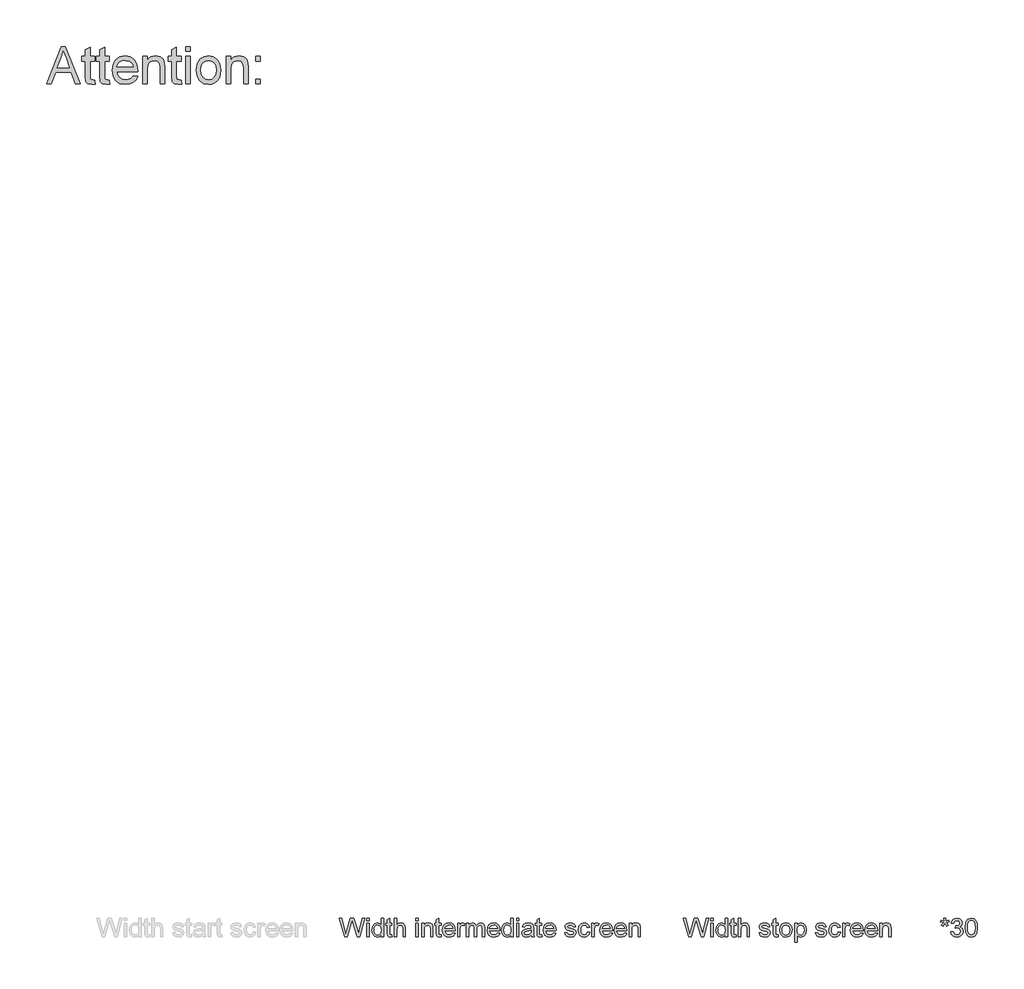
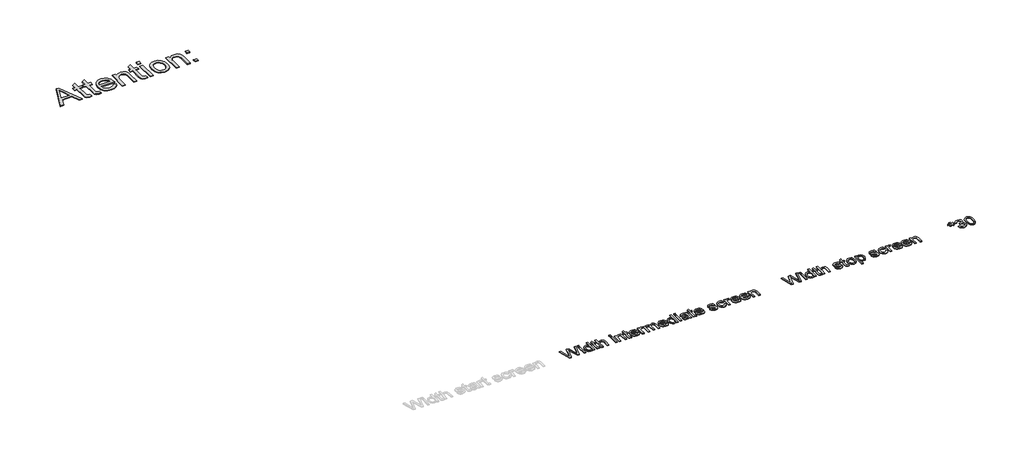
# One storey, part 5 of 8: 4 proxies.
"""IFC4 building model written with IfcOpenShell, lengths in millimetres."""

import ifcopenshell
import ifcopenshell.guid

model = None  # the IFC model being written
_history = None  # IfcOwnerHistory: only IFC2X3 demands one
_inside = {}  # id of a spatial element -> (the spatial element, [elements in it])
_under = {}  # id of a project, library or spatial element -> (it, [spatial elements below it])
_declared = {}  # id of a project -> (the project, [libraries it declares])
_typed = {}  # id of a type object -> (the type object, [elements of that type])
_made_of = {}  # id of a material, layer set ... -> (it, [elements and type objects made of it])


def new_model(schema):
    """Start an empty IFC model of exactly this schema.

    Asked for "IFC4X3", IfcOpenShell would pick the latest addendum, in which some entities
    have other attributes; the version numbers below select the first issue.
    IFC2X3 requires an IfcOwnerHistory on every rooted entity: one is made here for all.
    """
    global model, _history
    if schema == "IFC4X3":
        model = ifcopenshell.file(schema_version=(4, 3, 0, 0))
    else:
        model = ifcopenshell.file(schema=schema)
    _inside.clear()
    _under.clear()
    _declared.clear()
    _typed.clear()
    _made_of.clear()
    _history = None
    if model.schema == "IFC2X3":
        org = make("IfcOrganization", Name="unknown")
        user = make(
            "IfcPersonAndOrganization",
            ThePerson=make("IfcPerson", FamilyName="unknown"),
            TheOrganization=org,
        )
        app = make(
            "IfcApplication",
            ApplicationDeveloper=org,
            Version="unknown",
            ApplicationFullName="unknown",
            ApplicationIdentifier="unknown",
        )
        _history = make(
            "IfcOwnerHistory",
            OwningUser=user,
            OwningApplication=app,
            ChangeAction="ADDED",
            CreationDate=0,
        )
    return model


def make(cls, **values):
    """One entity of the class cls with the attributes given. An attribute that is None is left unset."""
    return model.create_entity(
        cls, **{name: value for name, value in values.items() if value is not None}
    )


def rooted(cls, **values):
    """An entity with a GlobalId (a new one), such as an element, a storey or a relation."""
    return make(cls, GlobalId=ifcopenshell.guid.new(), OwnerHistory=_history, **values)


def si_unit(unit_type, name, prefix=None):
    """IfcSIUnit, for example si_unit("LENGTHUNIT", "METRE", prefix="MILLI")."""
    return make("IfcSIUnit", UnitType=unit_type, Prefix=prefix, Name=name)


def assignment(units):
    """IfcUnitAssignment: the units of a project."""
    return None if units is None else make("IfcUnitAssignment", Units=units)


def point(xyz):
    """IfcCartesianPoint."""
    return None if xyz is None else make("IfcCartesianPoint", Coordinates=xyz)


def direction(xyz):
    """IfcDirection."""
    return None if xyz is None else make("IfcDirection", DirectionRatios=xyz)


def frame(location, z_axis=None, x_axis=None):
    """IfcAxis2Placement3D, a coordinate frame: its origin and axes. An axis left out is left unset."""
    return make(
        "IfcAxis2Placement3D",
        Location=point(location),
        Axis=direction(z_axis),
        RefDirection=direction(x_axis),
    )


def origin():
    """The frame at (0, 0, 0) with its axes left unset."""
    return frame((0.0, 0.0, 0.0))


def origin_with_axes():
    """The frame at (0, 0, 0) with the z axis (0, 0, 1) and the x axis (1, 0, 0) written out."""
    return frame((0.0, 0.0, 0.0), z_axis=(0.0, 0.0, 1.0), x_axis=(1.0, 0.0, 0.0))


def place(relative_to, where):
    """IfcLocalPlacement: puts the frame where relative to a parent placement (None: the world)."""
    return make(
        "IfcLocalPlacement", PlacementRelTo=relative_to, RelativePlacement=where
    )


def context(
    kind, dimensions, precision=None, world=None, true_north=None, identifier=None
):
    """IfcGeometricRepresentationContext, for example the 3D "Model" context."""
    return make(
        "IfcGeometricRepresentationContext",
        ContextIdentifier=identifier,
        ContextType=kind,
        CoordinateSpaceDimension=dimensions,
        Precision=precision,
        WorldCoordinateSystem=world,
        TrueNorth=true_north,
    )


def project(units=None, contexts=None):
    """IfcProject with its units and contexts."""
    return rooted(
        "IfcProject",
        Name="project",
        RepresentationContexts=contexts,
        UnitsInContext=assignment(units),
    )


def spatial(cls, under=None, at=None, **own):
    """A site, building, storey or space (cls), placed at a placement, below another one or the project."""
    s = rooted(cls, ObjectPlacement=at, **own)
    if under is not None:
        _under.setdefault(under.id(), (under, []))[1].append(s)
    return s


def polyline(points):
    """IfcPolyline through the points."""
    return make("IfcPolyline", Points=[point(p) for p in points])


def outline(outer, holes=None, kind="AREA"):
    """IfcArbitraryClosedProfileDef: a profile drawn as a closed curve; with holes, ...WithVoids."""
    if holes is None:
        return make("IfcArbitraryClosedProfileDef", ProfileType=kind, OuterCurve=outer)
    return make(
        "IfcArbitraryProfileDefWithVoids",
        ProfileType=kind,
        OuterCurve=outer,
        InnerCurves=holes,
    )


def extrude(swept, where, along, depth):
    """IfcExtrudedAreaSolid: the profile swept, set in the frame where, extruded along a direction by depth."""
    return make(
        "IfcExtrudedAreaSolid",
        SweptArea=swept,
        Position=where,
        ExtrudedDirection=direction(along),
        Depth=depth,
    )


def shape(context_of_items, identifier, shape_type, items):
    """IfcShapeRepresentation: the items that make up one representation, for example the "Body"."""
    return make(
        "IfcShapeRepresentation",
        ContextOfItems=context_of_items,
        RepresentationIdentifier=identifier,
        RepresentationType=shape_type,
        Items=items,
    )


def made_of(thing, what):
    """Note that an element or type object is made of a material, layer set ...; save() writes the relation."""
    if what is not None:
        _made_of.setdefault(what.id(), (what, []))[1].append(thing)
    return thing


def element(
    cls,
    number,
    at=None,
    inside=None,
    cuts=None,
    type_object=None,
    material=None,
    context=None,
    identifier="Body",
    shape_type=None,
    held_by="IfcProductDefinitionShape",
    body=None,
    shapes=None,
    **own,
):
    """One element of the class cls, such as IfcWall. Its Tag is "e" and its number.

    at: its placement. inside: the storey or other place that contains it. cuts: it is an
    opening in that element (IfcRelVoidsElement). A single representation is given by context,
    identifier, shape_type and body (its items); several are given by shapes. held_by: the class
    of the entity that holds the representations. save() writes the other relations.
    """
    e = rooted(cls, Tag="e%d" % number, ObjectPlacement=at, **own)
    if body is not None:
        shapes = [shape(context, identifier, shape_type, body)]
    if shapes is not None:
        e.Representation = make(held_by, Representations=shapes)
    if inside is not None:
        _inside.setdefault(inside.id(), (inside, []))[1].append(e)
    if cuts is not None:
        rooted(
            "IfcRelVoidsElement", RelatingBuildingElement=cuts, RelatedOpeningElement=e
        )
    if type_object is not None:
        _typed.setdefault(type_object.id(), (type_object, []))[1].append(e)
    return made_of(e, material)


def aggregate(whole, parts):
    """IfcRelAggregates: a whole, such as a stair, and the parts it consists of."""
    return rooted("IfcRelAggregates", RelatingObject=whole, RelatedObjects=parts)


def save(model, path):
    """Write the relations noted so far, then the file.

    IfcRelAggregates (storeys below a building ...), IfcRelContainedInSpatialStructure (elements
    in a storey), IfcRelDefinesByType, IfcRelAssociatesMaterial and IfcRelDeclares: one each for
    every whole, place, type object, material and project.
    """
    for whole, parts in _under.values():
        aggregate(whole, parts)
    for where, things in _inside.values():
        rooted(
            "IfcRelContainedInSpatialStructure",
            RelatedElements=things,
            RelatingStructure=where,
        )
    for kind, things in _typed.values():
        rooted("IfcRelDefinesByType", RelatedObjects=things, RelatingType=kind)
    for what, things in _made_of.values():
        rooted("IfcRelAssociatesMaterial", RelatedObjects=things, RelatingMaterial=what)
    for by, libraries in _declared.values():
        rooted("IfcRelDeclares", RelatingContext=by, RelatedDefinitions=libraries)
    model.write(path)


model = new_model("IFC4")

# Units and contexts
model_context = context("Model", 3, world=origin())
ifc_project = project(units=[si_unit("LENGTHUNIT", "METRE", prefix="MILLI")], contexts=[model_context])

# Site, building, storey
site = spatial("IfcSite", under=ifc_project)
building = spatial("IfcBuilding", under=site)
storey = spatial("IfcBuildingStorey", under=building, Name="Fixscreen Mini CW50 Overview Top", Elevation=0.0)

# Proxies
placement = place(None, origin())
element("IfcBuildingElementProxy", 1, Name="100mm Arial", ObjectType="100mm Arial", at=placement, inside=storey, context=model_context, shape_type="SweptSolid", body=[
    extrude(outline(polyline([(6048.0070111, -5916.1618941), (6020.6120652, -5815.705584), (6033.5615114, -5815.705584), (6049.4540136, -5881.7281394), (6054.3591069, -5902.1088019), (6059.6075567, -5884.0825842), (6079.5222354, -5815.705584), (6098.1861153, -5815.705584), (6112.6561404, -5865.2715515), (6123.4228201, -5902.1088019), (6128.1807606, -5882.3167506), (6144.2204156, -5815.705584), (6157.1698618, -5815.705584), (6129.7503904, -5916.1618941), (6116.3349603, -5916.1618941), (6092.2509524, -5838.6614205), (6088.8909635, -5827.8456898), (6085.1140417, -5840.8687125), (6063.1637493, -5916.1618941), (6048.0070111, -5916.1618941)])), origin_with_axes(), (0.0, 0.0, 1.0), 5.0),
    extrude(outline(polyline([(6168.1572707, -5916.1618941), (6168.1572707, -5842.3892914), (6180.7143095, -5842.3892914), (6180.7143095, -5916.1618941), (6168.1572707, -5916.1618941)])), origin_with_axes(), (0.0, 0.0, 1.0), 5.0),
    extrude(outline(polyline([(6168.1572707, -5828.2626228), (6168.1572707, -5815.705584), (6180.7143095, -5815.705584), (6180.7143095, -5828.2626228), (6168.1572707, -5828.2626228)])), origin_with_axes(), (0.0, 0.0, 1.0), 5.0),
    extrude(outline(polyline([(6245.0691332, -5916.1618941), (6245.0691332, -5904.3160939), (6236.7611315, -5914.3776665), (6225.2770819, -5917.731524), (6209.7279362, -5912.8754817), (6198.7405273, -5899.3251615), (6194.8409781, -5879.3491692), (6198.4339589, -5859.3609141), (6209.2006387, -5845.6021275), (6225.2280309, -5840.8196615), (6236.804051, -5844.2409641), (6245.0691332, -5853.1314456), (6245.0691332, -5815.705584), (6257.626172, -5815.705584), (6257.626172, -5916.1618941), (6245.0691332, -5916.1618941)]), holes=[polyline([(6207.3980169, -5879.3001182), (6208.8143626, -5890.6584748), (6213.0633996, -5898.7365503), (6219.2376858, -5903.5650015), (6226.4297788, -5905.1744852), (6233.6188061, -5903.6385779), (6239.6367424, -5899.0308559), (6243.7110355, -5891.2654801), (6245.0691332, -5880.2566114), (6243.68651, -5868.2207388), (6239.5386405, -5859.8759489), (6233.3674201, -5855.0015124), (6225.914744, -5853.3767003), (6218.6490746, -5854.9371331), (6212.6955176, -5859.6184315), (6208.7223921, -5867.6597188), (6207.3980169, -5879.3001182)])]), origin_with_axes(), (0.0, 0.0, 1.0), 5.0),
    extrude(outline(polyline([(6303.1454375, -5905.68952), (6304.7150673, -5916.5297761), (6295.3218137, -5917.731524), (6284.8003887, -5915.6468593), (6279.5519389, -5910.1776804), (6278.03136, -5895.9283844), (6278.03136, -5854.9463301), (6268.6135809, -5854.9463301), (6268.6135809, -5842.3892914), (6278.03136, -5842.3892914), (6278.03136, -5824.4611755), (6290.5883987, -5817.0790101), (6290.5883987, -5842.3892914), (6303.1454375, -5842.3892914), (6303.1454375, -5854.9463301), (6290.5883987, -5854.9463301), (6290.5883987, -5895.5605024), (6291.2505863, -5902.0352255), (6293.3965646, -5904.3283566), (6297.6762585, -5905.1744852), (6303.1454375, -5905.68952)])), origin_with_axes(), (0.0, 0.0, 1.0), 5.0),
    extrude(outline(polyline([(6315.7024763, -5916.1618941), (6315.7024763, -5815.705584), (6328.259515, -5815.705584), (6328.259515, -5852.6409363), (6338.0513075, -5843.7749802), (6350.1117056, -5840.8196615), (6364.2138487, -5844.0447604), (6372.7732365, -5852.9597674), (6375.3484104, -5869.4654062), (6375.3484104, -5916.1618941), (6362.7913717, -5916.1618941), (6362.7913717, -5870.7652559), (6358.7937206, -5857.5215041), (6347.4629552, -5853.3767003), (6337.1745221, -5856.1726035), (6330.3073915, -5863.7509726), (6328.259515, -5876.9701989), (6328.259515, -5916.1618941), (6315.7024763, -5916.1618941)])), origin_with_axes(), (0.0, 0.0, 1.0), 5.0),
    extrude(outline(polyline([(6431.8550849, -5828.2626228), (6431.8550849, -5815.705584), (6444.4121236, -5815.705584), (6444.4121236, -5828.2626228), (6431.8550849, -5828.2626228)])), origin_with_axes(), (0.0, 0.0, 1.0), 5.0),
    extrude(outline(polyline([(6431.8550849, -5916.1618941), (6431.8550849, -5842.3892914), (6444.4121236, -5842.3892914), (6444.4121236, -5916.1618941), (6431.8550849, -5916.1618941)])), origin_with_axes(), (0.0, 0.0, 1.0), 5.0),
    extrude(outline(polyline([(6463.2476818, -5916.1618941), (6463.2476818, -5842.3892914), (6475.8047206, -5842.3892914), (6475.8047206, -5852.6899872), (6485.4064406, -5843.787243), (6498.5153024, -5840.8196615), (6510.3733654, -5843.2108945), (6518.4667693, -5849.4894139), (6522.2314284, -5858.723252), (6522.893616, -5870.8633578), (6522.893616, -5916.1618941), (6510.3365772, -5916.1618941), (6510.3365772, -5872.555615), (6508.8895747, -5861.4455787), (6503.7760149, -5855.5717295), (6495.1553135, -5853.3767003), (6481.531417, -5858.306319), (6477.2363947, -5865.4493611), (6475.8047206, -5877.0192499), (6475.8047206, -5916.1618941), (6463.2476818, -5916.1618941)])), origin_with_axes(), (0.0, 0.0, 1.0), 5.0),
    extrude(outline(polyline([(6566.8432516, -5905.68952), (6568.4128815, -5916.5297761), (6559.0196279, -5917.731524), (6548.4982028, -5915.6468593), (6543.249753, -5910.1776804), (6541.7291741, -5895.9283844), (6541.7291741, -5854.9463301), (6532.311395, -5854.9463301), (6532.311395, -5842.3892914), (6541.7291741, -5842.3892914), (6541.7291741, -5824.4611755), (6554.2862129, -5817.0790101), (6554.2862129, -5842.3892914), (6566.8432516, -5842.3892914), (6566.8432516, -5854.9463301), (6554.2862129, -5854.9463301), (6554.2862129, -5895.5605024), (6554.9484005, -5902.0352255), (6557.0943788, -5904.3283566), (6561.3740726, -5905.1744852), (6566.8432516, -5905.68952)])), origin_with_axes(), (0.0, 0.0, 1.0), 5.0),
    extrude(outline(polyline([(6631.0509225, -5894.1870763), (6643.3627066, -5895.7567061), (6638.9266629, -5905.0334638), (6631.8480002, -5911.9680394), (6622.286134, -5916.2906528), (6610.4004799, -5917.731524), (6595.666806, -5915.2452548), (6584.3299091, -5907.7864474), (6577.1010279, -5895.8394796), (6574.6914009, -5879.8887294), (6577.1255534, -5863.4014847), (6584.428011, -5851.0713065), (6595.6116237, -5843.3825728), (6609.6892413, -5840.8196615), (6623.3284663, -5843.3764414), (6634.2269704, -5851.046781), (6641.3730782, -5863.3524337), (6643.7551141, -5879.815153), (6643.6815377, -5883.1996674), (6587.2484396, -5883.1996674), (6589.4220091, -5892.5990524), (6594.4711895, -5899.5091025), (6601.7583187, -5903.7581395), (6610.6457345, -5905.1744852), (6622.9575186, -5902.5502603), (6631.0509225, -5894.1870763)]), holes=[polyline([(6587.2484396, -5870.6426286), (6631.1980753, -5870.6426286), (6626.1703547, -5859.2628122), (6618.849503, -5854.8482283), (6609.6401904, -5853.3767003), (6594.1768839, -5858.0733271), (6589.3116445, -5863.5639659), (6587.2484396, -5870.6426286)])]), origin_with_axes(), (0.0, 0.0, 1.0), 5.0),
    extrude(outline(polyline([(6656.3121529, -5916.1618941), (6656.3121529, -5842.3892914), (6667.2995618, -5842.3892914), (6667.2995618, -5853.3031239), (6675.0986601, -5843.2476827), (6682.9468093, -5840.8196615), (6695.552899, -5844.6946852), (6691.3590443, -5855.9518743), (6682.5298764, -5853.3767003), (6675.4297539, -5855.8537724), (6670.9048053, -5862.720903), (6668.8691916, -5877.3871319), (6668.8691916, -5916.1618941), (6656.3121529, -5916.1618941)])), origin_with_axes(), (0.0, 0.0, 1.0), 5.0),
    extrude(outline(polyline([(6703.4010483, -5916.1618941), (6703.4010483, -5842.3892914), (6715.958087, -5842.3892914), (6715.958087, -5854.5293972), (6724.5910512, -5844.5843206), (6736.8783098, -5840.8196615), (6749.459874, -5844.657897), (6756.3760556, -5855.412314), (6766.1739794, -5844.4678246), (6778.5470771, -5840.8196615), (6787.986316, -5842.3371748), (6794.9668769, -5846.8897145), (6799.2802932, -5854.5999079), (6800.7180987, -5865.5903825), (6800.7180987, -5916.1618941), (6788.1610599, -5916.1618941), (6788.1610599, -5870.9859851), (6786.9961003, -5860.5013483), (6782.7777201, -5855.3387376), (6775.6040212, -5853.3767003), (6763.2554489, -5858.4044209), (6759.5674319, -5864.946589), (6758.3380929, -5874.5176523), (6758.3380929, -5916.1618941), (6745.7810541, -5916.1618941), (6745.7810541, -5869.5880336), (6742.8747863, -5857.4234022), (6733.3466427, -5853.3767003), (6724.0514909, -5856.0745016), (6717.8710734, -5863.9717018), (6715.958087, -5878.9567617), (6715.958087, -5916.1618941), (6703.4010483, -5916.1618941)])), origin_with_axes(), (0.0, 0.0, 1.0), 5.0),
    extrude(outline(polyline([(6871.204289, -5894.1870763), (6883.5160731, -5895.7567061), (6879.0800294, -5905.0334638), (6872.0013666, -5911.9680394), (6862.4395005, -5916.2906528), (6850.5538463, -5917.731524), (6835.8201724, -5915.2452548), (6824.4832756, -5907.7864474), (6817.2543944, -5895.8394796), (6814.8447673, -5879.8887294), (6817.2789199, -5863.4014847), (6824.5813775, -5851.0713065), (6835.7649901, -5843.3825728), (6849.8426078, -5840.8196615), (6863.4818328, -5843.3764414), (6874.3803369, -5851.046781), (6881.5264446, -5863.3524337), (6883.9084806, -5879.815153), (6883.8349042, -5883.1996674), (6827.4018061, -5883.1996674), (6829.5753755, -5892.5990524), (6834.6245559, -5899.5091025), (6841.9116851, -5903.7581395), (6850.799101, -5905.1744852), (6863.1108851, -5902.5502603), (6871.204289, -5894.1870763)]), holes=[polyline([(6827.4018061, -5870.6426286), (6871.3514418, -5870.6426286), (6866.3237212, -5859.2628122), (6859.0028695, -5854.8482283), (6849.7935569, -5853.3767003), (6834.3302503, -5858.0733271), (6829.4650109, -5863.5639659), (6827.4018061, -5870.6426286)])]), origin_with_axes(), (0.0, 0.0, 1.0), 5.0),
    extrude(outline(polyline([(6941.9847849, -5916.1618941), (6941.9847849, -5904.3160939), (6933.6767831, -5914.3776665), (6922.1927335, -5917.731524), (6906.6435879, -5912.8754817), (6895.6561789, -5899.3251615), (6891.7566298, -5879.3491692), (6895.3496106, -5859.3609141), (6906.1162903, -5845.6021275), (6922.1436826, -5840.8196615), (6933.7197027, -5844.2409641), (6941.9847849, -5853.1314456), (6941.9847849, -5815.705584), (6954.5418236, -5815.705584), (6954.5418236, -5916.1618941), (6941.9847849, -5916.1618941)]), holes=[polyline([(6904.3136686, -5879.3001182), (6905.7300142, -5890.6584748), (6909.9790513, -5898.7365503), (6916.1533374, -5903.5650015), (6923.3454304, -5905.1744852), (6930.5344578, -5903.6385779), (6936.5523941, -5899.0308559), (6940.6266872, -5891.2654801), (6941.9847849, -5880.2566114), (6940.6021617, -5868.2207388), (6936.4542922, -5859.8759489), (6930.2830717, -5855.0015124), (6922.8303956, -5853.3767003), (6915.5647262, -5854.9371331), (6909.6111693, -5859.6184315), (6905.6380437, -5867.6597188), (6904.3136686, -5879.3001182)])]), origin_with_axes(), (0.0, 0.0, 1.0), 5.0),
    extrude(outline(polyline([(6973.3773818, -5916.1618941), (6973.3773818, -5842.3892914), (6985.9344205, -5842.3892914), (6985.9344205, -5916.1618941), (6973.3773818, -5916.1618941)])), origin_with_axes(), (0.0, 0.0, 1.0), 5.0),
    extrude(outline(polyline([(6973.3773818, -5828.2626228), (6973.3773818, -5815.705584), (6985.9344205, -5815.705584), (6985.9344205, -5828.2626228), (6973.3773818, -5828.2626228)])), origin_with_axes(), (0.0, 0.0, 1.0), 5.0),
    extrude(outline(polyline([(7051.8588741, -5906.7441151), (7039.68198, -5915.2544519), (7026.2297618, -5917.731524), (7015.7359278, -5916.2416019), (7007.9950775, -5911.7718357), (7003.2218086, -5904.9844129), (7001.630719, -5896.5415211), (7004.0342147, -5886.6087072), (7010.3495223, -5879.3982201), (7019.141902, -5875.2779417), (7030.0066836, -5873.3894808), (7051.7852977, -5869.0729988), (7051.8588741, -5866.2770956), (7048.4007833, -5857.0064693), (7034.5193694, -5853.3767003), (7021.8151778, -5855.7924587), (7015.7573876, -5864.3641092), (7003.2003489, -5862.7944794), (7008.6327397, -5850.5317462), (7019.5710976, -5843.3457846), (7036.1380502, -5840.8196615), (7051.356102, -5843.051479), (7059.952278, -5848.655548), (7063.8027762, -5857.1781476), (7064.4159129, -5868.1655565), (7064.4159129, -5883.7882786), (7065.053575, -5905.6036809), (7067.5551725, -5916.1618941), (7054.9981338, -5916.1618941), (7051.8588741, -5906.7441151)]), holes=[polyline([(7051.8588741, -5881.6300375), (7031.6008389, -5885.4805357), (7020.797371, -5887.5161495), (7015.9045404, -5890.8270874), (7014.1877578, -5895.6586043), (7017.9278914, -5902.4521585), (7028.9030376, -5905.1744852), (7041.6072292, -5902.1701156), (7049.7987349, -5894.8983148), (7051.7852977, -5885.1862301), (7051.8588741, -5881.6300375)])]), origin_with_axes(), (0.0, 0.0, 1.0), 5.0),
    extrude(outline(polyline([(7108.3655485, -5905.68952), (7109.9351784, -5916.5297761), (7100.5419248, -5917.731524), (7090.0204997, -5915.6468593), (7084.7720499, -5910.1776804), (7083.251471, -5895.9283844), (7083.251471, -5854.9463301), (7073.8336919, -5854.9463301), (7073.8336919, -5842.3892914), (7083.251471, -5842.3892914), (7083.251471, -5824.4611755), (7095.8085098, -5817.0790101), (7095.8085098, -5842.3892914), (7108.3655485, -5842.3892914), (7108.3655485, -5854.9463301), (7095.8085098, -5854.9463301), (7095.8085098, -5895.5605024), (7096.4706974, -5902.0352255), (7098.6166757, -5904.3283566), (7102.8963695, -5905.1744852), (7108.3655485, -5905.68952)])), origin_with_axes(), (0.0, 0.0, 1.0), 5.0),
    extrude(outline(polyline([(7172.5732194, -5894.1870763), (7184.8850035, -5895.7567061), (7180.4489598, -5905.0334638), (7173.3702971, -5911.9680394), (7163.8084309, -5916.2906528), (7151.9227768, -5917.731524), (7137.1891029, -5915.2452548), (7125.852206, -5907.7864474), (7118.6233248, -5895.8394796), (7116.2136978, -5879.8887294), (7118.6478503, -5863.4014847), (7125.9503079, -5851.0713065), (7137.1339206, -5843.3825728), (7151.2115382, -5840.8196615), (7164.8507632, -5843.3764414), (7175.7492673, -5851.046781), (7182.8953751, -5863.3524337), (7185.277411, -5879.815153), (7185.2038346, -5883.1996674), (7128.7707365, -5883.1996674), (7130.944306, -5892.5990524), (7135.9934864, -5899.5091025), (7143.2806156, -5903.7581395), (7152.1680314, -5905.1744852), (7164.4798155, -5902.5502603), (7172.5732194, -5894.1870763)]), holes=[polyline([(7128.7707365, -5870.6426286), (7172.7203722, -5870.6426286), (7167.6926516, -5859.2628122), (7160.3717999, -5854.8482283), (7151.1624873, -5853.3767003), (7135.6991808, -5858.0733271), (7130.8339414, -5863.5639659), (7128.7707365, -5870.6426286)])]), origin_with_axes(), (0.0, 0.0, 1.0), 5.0),
    extrude(outline(polyline([(7232.3663064, -5894.1870763), (7244.9233452, -5892.6174465), (7250.7358807, -5901.9371237), (7264.0532089, -5905.1744852), (7276.8555023, -5902.2069038), (7281.0248316, -5895.2416713), (7276.8309769, -5889.6008141), (7263.9060561, -5886.020096), (7244.9969216, -5879.8764667), (7236.7441021, -5872.7027678), (7233.9359362, -5862.5737502), (7236.1922791, -5853.2172848), (7242.3481712, -5846.0681113), (7250.3312105, -5842.3525032), (7261.1346784, -5840.8196615), (7276.4140439, -5843.2844709), (7286.1261286, -5849.9553977), (7290.4426107, -5861.2248495), (7277.8855719, -5862.7944794), (7273.1644196, -5855.8660351), (7262.1156971, -5853.3767003), (7250.0982186, -5855.7556705), (7246.492975, -5861.2984259), (7247.9890284, -5864.9527204), (7252.6733925, -5867.7240981), (7263.4891232, -5870.3973739), (7281.9200111, -5876.3080113), (7290.4793989, -5883.0034636), (7293.5818704, -5893.9172962), (7289.9398386, -5905.9347747), (7279.4306763, -5914.653578), (7263.8815306, -5917.731524), (7251.2202586, -5916.2477333), (7241.9802892, -5911.7963611), (7235.8121344, -5904.4264585), (7232.3663064, -5894.1870763)])), origin_with_axes(), (0.0, 0.0, 1.0), 5.0),
    extrude(outline(polyline([(7354.7974344, -5889.4781868), (7367.3544731, -5891.0478166), (7363.8534628, -5902.2161008), (7357.2745065, -5910.6559269), (7348.2368721, -5915.9626247), (7337.3598278, -5917.731524), (7324.0026457, -5915.2636489), (7313.5578627, -5907.8600238), (7306.8164252, -5895.845611), (7304.5692793, -5879.5453729), (7308.4075148, -5858.6864638), (7320.1061622, -5845.2832964), (7337.1881495, -5840.8196615), (7347.7984794, -5842.3525032), (7356.2812251, -5846.9510281), (7362.3666064, -5854.3699817), (7365.7848433, -5864.3641092), (7353.2278045, -5865.9337391), (7347.4030063, -5856.5282227), (7337.2862514, -5853.3767003), (7329.1713877, -5854.927936), (7322.7303871, -5859.5816433), (7318.5273353, -5867.589208), (7317.1263181, -5879.2020164), (7318.4966785, -5890.9711745), (7322.6077598, -5899.0063304), (7328.9322644, -5903.6324465), (7336.9428949, -5905.1744852), (7348.7764324, -5901.323987), (7354.7974344, -5889.4781868)])), origin_with_axes(), (0.0, 0.0, 1.0), 5.0),
    extrude(outline(polyline([(7378.3418821, -5916.1618941), (7378.3418821, -5842.3892914), (7389.329291, -5842.3892914), (7389.329291, -5853.3031239), (7397.1283893, -5843.2476827), (7404.9765385, -5840.8196615), (7417.5826282, -5844.6946852), (7413.3887735, -5855.9518743), (7404.5596056, -5853.3767003), (7397.4594831, -5855.8537724), (7392.9345345, -5862.720903), (7390.8989208, -5877.3871319), (7390.8989208, -5916.1618941), (7378.3418821, -5916.1618941)])), origin_with_axes(), (0.0, 0.0, 1.0), 5.0),
    extrude(outline(polyline([(7477.0814096, -5894.1870763), (7489.3931937, -5895.7567061), (7484.95715, -5905.0334638), (7477.8784872, -5911.9680394), (7468.316621, -5916.2906528), (7456.4309669, -5917.731524), (7441.697293, -5915.2452548), (7430.3603962, -5907.7864474), (7423.131515, -5895.8394796), (7420.7218879, -5879.8887294), (7423.1560404, -5863.4014847), (7430.4584981, -5851.0713065), (7441.6421107, -5843.3825728), (7455.7197284, -5840.8196615), (7469.3589534, -5843.3764414), (7480.2574575, -5851.046781), (7487.4035652, -5863.3524337), (7489.7856011, -5879.815153), (7489.7120247, -5883.1996674), (7433.2789267, -5883.1996674), (7435.4524961, -5892.5990524), (7440.5016765, -5899.5091025), (7447.7888057, -5903.7581395), (7456.6762216, -5905.1744852), (7468.9880057, -5902.5502603), (7477.0814096, -5894.1870763)]), holes=[polyline([(7433.2789267, -5870.6426286), (7477.2285624, -5870.6426286), (7472.2008418, -5859.2628122), (7464.8799901, -5854.8482283), (7455.6706775, -5853.3767003), (7440.2073709, -5858.0733271), (7435.3421315, -5863.5639659), (7433.2789267, -5870.6426286)])]), origin_with_axes(), (0.0, 0.0, 1.0), 5.0),
    extrude(outline(polyline([(7553.993272, -5894.1870763), (7566.3050561, -5895.7567061), (7561.8690124, -5905.0334638), (7554.7903497, -5911.9680394), (7545.2284835, -5916.2906528), (7533.3428294, -5917.731524), (7518.6091555, -5915.2452548), (7507.2722586, -5907.7864474), (7500.0433774, -5895.8394796), (7497.6337504, -5879.8887294), (7500.0679029, -5863.4014847), (7507.3703605, -5851.0713065), (7518.5539732, -5843.3825728), (7532.6315908, -5840.8196615), (7546.2708158, -5843.3764414), (7557.1693199, -5851.046781), (7564.3154277, -5863.3524337), (7566.6974636, -5879.815153), (7566.6238872, -5883.1996674), (7510.1907891, -5883.1996674), (7512.3643586, -5892.5990524), (7517.413539, -5899.5091025), (7524.7006682, -5903.7581395), (7533.588084, -5905.1744852), (7545.8998681, -5902.5502603), (7553.993272, -5894.1870763)]), holes=[polyline([(7510.1907891, -5870.6426286), (7554.1404248, -5870.6426286), (7549.1127042, -5859.2628122), (7541.7918525, -5854.8482283), (7532.5825399, -5853.3767003), (7517.1192334, -5858.0733271), (7512.253994, -5863.5639659), (7510.1907891, -5870.6426286)])]), origin_with_axes(), (0.0, 0.0, 1.0), 5.0),
    extrude(outline(polyline([(7579.2545024, -5916.1618941), (7579.2545024, -5842.3892914), (7591.8115411, -5842.3892914), (7591.8115411, -5852.6899872), (7601.4132612, -5843.787243), (7614.522123, -5840.8196615), (7626.380186, -5843.2108945), (7634.4735898, -5849.4894139), (7638.2382489, -5858.723252), (7638.9004365, -5870.8633578), (7638.9004365, -5916.1618941), (7626.3433978, -5916.1618941), (7626.3433978, -5872.555615), (7624.8963952, -5861.4455787), (7619.7828355, -5855.5717295), (7611.1621341, -5853.3767003), (7597.5382375, -5858.306319), (7593.2432152, -5865.4493611), (7591.8115411, -5877.0192499), (7591.8115411, -5916.1618941), (7579.2545024, -5916.1618941)])), origin_with_axes(), (0.0, 0.0, 1.0), 5.0),
])
element("IfcBuildingElementProxy", 2, Name="100mm Arial", ObjectType="100mm Arial", at=placement, inside=storey, context=model_context, shape_type="SweptSolid", body=[
    extrude(outline(polyline([(7898.2278873, -5916.1618941), (7870.8329413, -5815.705584), (7883.7823876, -5815.705584), (7899.6748898, -5881.7281394), (7904.579983, -5902.1088019), (7909.8284328, -5884.0825842), (7929.7431115, -5815.705584), (7948.4069914, -5815.705584), (7962.8770165, -5865.2715515), (7973.6436963, -5902.1088019), (7978.4016367, -5882.3167506), (7994.4412917, -5815.705584), (8007.390738, -5815.705584), (7979.9712666, -5916.1618941), (7966.5558365, -5916.1618941), (7942.4718285, -5838.6614205), (7939.1118396, -5827.8456898), (7935.3349178, -5840.8687125), (7913.3846255, -5916.1618941), (7898.2278873, -5916.1618941)])), origin_with_axes(), (0.0, 0.0, 1.0), 5.0),
    extrude(outline(polyline([(8018.3781469, -5916.1618941), (8018.3781469, -5842.3892914), (8030.9351856, -5842.3892914), (8030.9351856, -5916.1618941), (8018.3781469, -5916.1618941)])), origin_with_axes(), (0.0, 0.0, 1.0), 5.0),
    extrude(outline(polyline([(8018.3781469, -5828.2626228), (8018.3781469, -5815.705584), (8030.9351856, -5815.705584), (8030.9351856, -5828.2626228), (8018.3781469, -5828.2626228)])), origin_with_axes(), (0.0, 0.0, 1.0), 5.0),
    extrude(outline(polyline([(8095.2900093, -5916.1618941), (8095.2900093, -5904.3160939), (8086.9820076, -5914.3776665), (8075.497958, -5917.731524), (8059.9488123, -5912.8754817), (8048.9614034, -5899.3251615), (8045.0618543, -5879.3491692), (8048.6548351, -5859.3609141), (8059.4215148, -5845.6021275), (8075.4489071, -5840.8196615), (8087.0249272, -5844.2409641), (8095.2900093, -5853.1314456), (8095.2900093, -5815.705584), (8107.8470481, -5815.705584), (8107.8470481, -5916.1618941), (8095.2900093, -5916.1618941)]), holes=[polyline([(8057.618893, -5879.3001182), (8059.0352387, -5890.6584748), (8063.2842758, -5898.7365503), (8069.4585619, -5903.5650015), (8076.6506549, -5905.1744852), (8083.8396822, -5903.6385779), (8089.8576185, -5899.0308559), (8093.9319116, -5891.2654801), (8095.2900093, -5880.2566114), (8093.9073862, -5868.2207388), (8089.7595167, -5859.8759489), (8083.5882962, -5855.0015124), (8076.1356201, -5853.3767003), (8068.8699507, -5854.9371331), (8062.9163938, -5859.6184315), (8058.9432682, -5867.6597188), (8057.618893, -5879.3001182)])]), origin_with_axes(), (0.0, 0.0, 1.0), 5.0),
    extrude(outline(polyline([(8153.3663136, -5905.68952), (8154.9359435, -5916.5297761), (8145.5426899, -5917.731524), (8135.0212648, -5915.6468593), (8129.772815, -5910.1776804), (8128.2522361, -5895.9283844), (8128.2522361, -5854.9463301), (8118.834457, -5854.9463301), (8118.834457, -5842.3892914), (8128.2522361, -5842.3892914), (8128.2522361, -5824.4611755), (8140.8092749, -5817.0790101), (8140.8092749, -5842.3892914), (8153.3663136, -5842.3892914), (8153.3663136, -5854.9463301), (8140.8092749, -5854.9463301), (8140.8092749, -5895.5605024), (8141.4714625, -5902.0352255), (8143.6174408, -5904.3283566), (8147.8971346, -5905.1744852), (8153.3663136, -5905.68952)])), origin_with_axes(), (0.0, 0.0, 1.0), 5.0),
    extrude(outline(polyline([(8165.9233524, -5916.1618941), (8165.9233524, -5815.705584), (8178.4803912, -5815.705584), (8178.4803912, -5852.6409363), (8188.2721836, -5843.7749802), (8200.3325817, -5840.8196615), (8214.4347248, -5844.0447604), (8222.9941126, -5852.9597674), (8225.5692866, -5869.4654062), (8225.5692866, -5916.1618941), (8213.0122478, -5916.1618941), (8213.0122478, -5870.7652559), (8209.0145968, -5857.5215041), (8197.6838313, -5853.3767003), (8187.3953982, -5856.1726035), (8180.5282676, -5863.7509726), (8178.4803912, -5876.9701989), (8178.4803912, -5916.1618941), (8165.9233524, -5916.1618941)])), origin_with_axes(), (0.0, 0.0, 1.0), 5.0),
    extrude(outline(polyline([(8277.3670715, -5894.1870763), (8289.9241102, -5892.6174465), (8295.7366458, -5901.9371237), (8309.053974, -5905.1744852), (8321.8562674, -5902.2069038), (8326.0255967, -5895.2416713), (8321.831742, -5889.6008141), (8308.9068212, -5886.020096), (8289.9976866, -5879.8764667), (8281.7448672, -5872.7027678), (8278.9367013, -5862.5737502), (8281.1930442, -5853.2172848), (8287.3489363, -5846.0681113), (8295.3319756, -5842.3525032), (8306.1354435, -5840.8196615), (8321.414809, -5843.2844709), (8331.1268937, -5849.9553977), (8335.4433758, -5861.2248495), (8322.886337, -5862.7944794), (8318.1651847, -5855.8660351), (8307.1164622, -5853.3767003), (8295.0989836, -5855.7556705), (8291.4937401, -5861.2984259), (8292.9897935, -5864.9527204), (8297.6741576, -5867.7240981), (8308.4898883, -5870.3973739), (8326.9207762, -5876.3080113), (8335.480164, -5883.0034636), (8338.5826355, -5893.9172962), (8334.9406037, -5905.9347747), (8324.4314414, -5914.653578), (8308.8822957, -5917.731524), (8296.2210237, -5916.2477333), (8286.9810543, -5911.7963611), (8280.8128995, -5904.4264585), (8277.3670715, -5894.1870763)])), origin_with_axes(), (0.0, 0.0, 1.0), 5.0),
    extrude(outline(polyline([(8379.3930115, -5905.68952), (8380.9626413, -5916.5297761), (8371.5693877, -5917.731524), (8361.0479627, -5915.6468593), (8355.7995129, -5910.1776804), (8354.2789339, -5895.9283844), (8354.2789339, -5854.9463301), (8344.8611549, -5854.9463301), (8344.8611549, -5842.3892914), (8354.2789339, -5842.3892914), (8354.2789339, -5824.4611755), (8366.8359727, -5817.0790101), (8366.8359727, -5842.3892914), (8379.3930115, -5842.3892914), (8379.3930115, -5854.9463301), (8366.8359727, -5854.9463301), (8366.8359727, -5895.5605024), (8367.4981603, -5902.0352255), (8369.6441386, -5904.3283566), (8373.9238325, -5905.1744852), (8379.3930115, -5905.68952)])), origin_with_axes(), (0.0, 0.0, 1.0), 5.0),
    extrude(outline(polyline([(8388.8107906, -5879.2755928), (8391.526986, -5861.4884983), (8399.6755721, -5848.9866418), (8409.7432761, -5842.8614066), (8421.7975428, -5840.8196615), (8434.989178, -5843.3059307), (8445.5259315, -5850.7647381), (8452.4329159, -5862.6074727), (8454.7352441, -5878.2455232), (8450.6640167, -5900.588223), (8438.8059537, -5913.2311009), (8421.7975428, -5917.731524), (8408.446492, -5915.2544519), (8397.9220013, -5907.8232356), (8391.0885932, -5895.7321807), (8388.8107906, -5879.2755928)]), holes=[polyline([(8401.3678293, -5879.2510673), (8402.8209632, -5890.6155553), (8407.1803648, -5898.7120248), (8413.7409271, -5903.5588701), (8421.7975428, -5905.1744852), (8429.8173703, -5903.5496731), (8436.3656698, -5898.6752366), (8440.7250714, -5890.4714681), (8442.1782053, -5878.8586598), (8440.7158744, -5867.8252657), (8436.3288816, -5859.8391607), (8429.771385, -5854.9923154), (8421.7975428, -5853.3767003), (8413.7409271, -5854.986184), (8407.1803648, -5859.8146352), (8402.8209632, -5867.8927107), (8401.3678293, -5879.2510673)])]), origin_with_axes(), (0.0, 0.0, 1.0), 5.0),
    extrude(outline(polyline([(8468.8619127, -5944.4152314), (8468.8619127, -5842.3892914), (8481.4189515, -5842.3892914), (8481.4189515, -5854.7010755), (8490.1009666, -5844.290015), (8501.8241395, -5840.8196615), (8517.7411671, -5845.6757039), (8528.1399649, -5859.3609141), (8531.6471065, -5878.711507), (8527.6862437, -5899.0553814), (8516.1838, -5912.9122699), (8500.3035606, -5917.731524), (8489.3774653, -5914.5064252), (8481.4189515, -5906.3517076), (8481.4189515, -5944.4152314), (8468.8619127, -5944.4152314)]), holes=[polyline([(8481.4189515, -5879.864204), (8482.7770492, -5891.121393), (8486.8513423, -5898.9940677), (8492.8631472, -5903.6293808), (8500.0337804, -5905.1744852), (8507.3209096, -5903.5741985), (8513.4859987, -5898.7733385), (8517.6890505, -5890.6124896), (8519.0900678, -5878.9322362), (8517.722773, -5867.7363608), (8513.6208888, -5859.7533215), (8507.6182809, -5854.9708556), (8500.5488152, -5853.3767003), (8493.4517584, -5855.0720232), (8487.2192243, -5860.1579917), (8482.8690197, -5868.4751905), (8481.4189515, -5879.864204)])]), origin_with_axes(), (0.0, 0.0, 1.0), 5.0),
    extrude(outline(polyline([(8580.3056318, -5894.1870763), (8592.8626705, -5892.6174465), (8598.6752061, -5901.9371237), (8611.9925343, -5905.1744852), (8624.7948277, -5902.2069038), (8628.964157, -5895.2416713), (8624.7703023, -5889.6008141), (8611.8453815, -5886.020096), (8592.9362469, -5879.8764667), (8584.6834275, -5872.7027678), (8581.8752616, -5862.5737502), (8584.1316045, -5853.2172848), (8590.2874966, -5846.0681113), (8598.2705359, -5842.3525032), (8609.0740038, -5840.8196615), (8624.3533693, -5843.2844709), (8634.065454, -5849.9553977), (8638.3819361, -5861.2248495), (8625.8248973, -5862.7944794), (8621.103745, -5855.8660351), (8610.0550225, -5853.3767003), (8598.0375439, -5855.7556705), (8594.4323004, -5861.2984259), (8595.9283538, -5864.9527204), (8600.6127179, -5867.7240981), (8611.4284486, -5870.3973739), (8629.8593365, -5876.3080113), (8638.4187243, -5883.0034636), (8641.5211958, -5893.9172962), (8637.879164, -5905.9347747), (8627.3700017, -5914.653578), (8611.820856, -5917.731524), (8599.159584, -5916.2477333), (8589.9196146, -5911.7963611), (8583.7514598, -5904.4264585), (8580.3056318, -5894.1870763)])), origin_with_axes(), (0.0, 0.0, 1.0), 5.0),
    extrude(outline(polyline([(8702.7367598, -5889.4781868), (8715.2937985, -5891.0478166), (8711.7927882, -5902.2161008), (8705.2138319, -5910.6559269), (8696.1761975, -5915.9626247), (8685.2991532, -5917.731524), (8671.9419711, -5915.2636489), (8661.4971881, -5907.8600238), (8654.7557505, -5895.845611), (8652.5086047, -5879.5453729), (8656.3468402, -5858.6864638), (8668.0454876, -5845.2832964), (8685.1274749, -5840.8196615), (8695.7378048, -5842.3525032), (8704.2205505, -5846.9510281), (8710.3059318, -5854.3699817), (8713.7241687, -5864.3641092), (8701.1671299, -5865.9337391), (8695.3423317, -5856.5282227), (8685.2255768, -5853.3767003), (8677.1107131, -5854.927936), (8670.6697125, -5859.5816433), (8666.4666607, -5867.589208), (8665.0656435, -5879.2020164), (8666.4360039, -5890.9711745), (8670.5470852, -5899.0063304), (8676.8715898, -5903.6324465), (8684.8822203, -5905.1744852), (8696.7157578, -5901.323987), (8702.7367598, -5889.4781868)])), origin_with_axes(), (0.0, 0.0, 1.0), 5.0),
    extrude(outline(polyline([(8726.2812075, -5916.1618941), (8726.2812075, -5842.3892914), (8737.2686164, -5842.3892914), (8737.2686164, -5853.3031239), (8745.0677147, -5843.2476827), (8752.9158639, -5840.8196615), (8765.5219536, -5844.6946852), (8761.3280989, -5855.9518743), (8752.498931, -5853.3767003), (8745.3988085, -5855.8537724), (8740.8738599, -5862.720903), (8738.8382462, -5877.3871319), (8738.8382462, -5916.1618941), (8726.2812075, -5916.1618941)])), origin_with_axes(), (0.0, 0.0, 1.0), 5.0),
    extrude(outline(polyline([(8825.020735, -5894.1870763), (8837.3325191, -5895.7567061), (8832.8964753, -5905.0334638), (8825.8178126, -5911.9680394), (8816.2559464, -5916.2906528), (8804.3702923, -5917.731524), (8789.6366184, -5915.2452548), (8778.2997216, -5907.7864474), (8771.0708404, -5895.8394796), (8768.6612133, -5879.8887294), (8771.0953658, -5863.4014847), (8778.3978234, -5851.0713065), (8789.5814361, -5843.3825728), (8803.6590538, -5840.8196615), (8817.2982788, -5843.3764414), (8828.1967829, -5851.046781), (8835.3428906, -5863.3524337), (8837.7249265, -5879.815153), (8837.6513501, -5883.1996674), (8781.2182521, -5883.1996674), (8783.3918215, -5892.5990524), (8788.4410019, -5899.5091025), (8795.7281311, -5903.7581395), (8804.615547, -5905.1744852), (8816.9273311, -5902.5502603), (8825.020735, -5894.1870763)]), holes=[polyline([(8781.2182521, -5870.6426286), (8825.1678878, -5870.6426286), (8820.1401672, -5859.2628122), (8812.8193155, -5854.8482283), (8803.6100028, -5853.3767003), (8788.1466963, -5858.0733271), (8783.2814569, -5863.5639659), (8781.2182521, -5870.6426286)])]), origin_with_axes(), (0.0, 0.0, 1.0), 5.0),
    extrude(outline(polyline([(8901.9325974, -5894.1870763), (8914.2443815, -5895.7567061), (8909.8083378, -5905.0334638), (8902.7296751, -5911.9680394), (8893.1678089, -5916.2906528), (8881.2821548, -5917.731524), (8866.5484809, -5915.2452548), (8855.211584, -5907.7864474), (8847.9827028, -5895.8394796), (8845.5730758, -5879.8887294), (8848.0072283, -5863.4014847), (8855.3096859, -5851.0713065), (8866.4932986, -5843.3825728), (8880.5709162, -5840.8196615), (8894.2101412, -5843.3764414), (8905.1086453, -5851.046781), (8912.2547531, -5863.3524337), (8914.636789, -5879.815153), (8914.5632126, -5883.1996674), (8858.1301145, -5883.1996674), (8860.303684, -5892.5990524), (8865.3528644, -5899.5091025), (8872.6399936, -5903.7581395), (8881.5274094, -5905.1744852), (8893.8391935, -5902.5502603), (8901.9325974, -5894.1870763)]), holes=[polyline([(8858.1301145, -5870.6426286), (8902.0797502, -5870.6426286), (8897.0520296, -5859.2628122), (8889.7311779, -5854.8482283), (8880.5218653, -5853.3767003), (8865.0585588, -5858.0733271), (8860.1933194, -5863.5639659), (8858.1301145, -5870.6426286)])]), origin_with_axes(), (0.0, 0.0, 1.0), 5.0),
    extrude(outline(polyline([(8927.1938278, -5916.1618941), (8927.1938278, -5842.3892914), (8939.7508665, -5842.3892914), (8939.7508665, -5852.6899872), (8949.3525866, -5843.787243), (8962.4614484, -5840.8196615), (8974.3195113, -5843.2108945), (8982.4129152, -5849.4894139), (8986.1775743, -5858.723252), (8986.8397619, -5870.8633578), (8986.8397619, -5916.1618941), (8974.2827231, -5916.1618941), (8974.2827231, -5872.555615), (8972.8357206, -5861.4455787), (8967.7221609, -5855.5717295), (8959.1014595, -5853.3767003), (8945.4775629, -5858.306319), (8941.1825406, -5865.4493611), (8939.7508665, -5877.0192499), (8939.7508665, -5916.1618941), (8927.1938278, -5916.1618941)])), origin_with_axes(), (0.0, 0.0, 1.0), 5.0),
])
element("IfcBuildingElementProxy", 3, Name="100mm Arial", ObjectType="100mm Arial", at=placement, inside=storey, context=model_context, shape_type="SweptSolid", body=[
    extrude(outline(polyline([(9252.3041161, -5836.110772), (9255.664105, -5826.2515345), (9272.6602532, -5832.9960378), (9271.1396742, -5815.705584), (9282.1270832, -5815.705584), (9280.3857751, -5832.9224614), (9297.6271779, -5826.2515345), (9300.9626413, -5836.110772), (9282.8873726, -5839.8386429), (9295.370835, -5852.4202071), (9286.639769, -5858.0855898), (9276.437175, -5843.7627175), (9266.7496158, -5858.0855898), (9258.0921262, -5852.4202071), (9270.232232, -5839.8386429), (9252.3041161, -5836.110772)])), origin_with_axes(), (0.0, 0.0, 1.0), 5.0),
    extrude(outline(polyline([(9308.8107906, -5889.4781868), (9321.3678293, -5887.9085569), (9328.2962736, -5901.1277833), (9341.2579825, -5905.1744852), (9349.8664212, -5903.782665), (9356.5128226, -5899.6072044), (9362.1782053, -5885.8238923), (9356.5618735, -5872.8376578), (9342.2880521, -5867.6995726), (9333.4834097, -5869.0729988), (9334.8813613, -5856.51596), (9336.8924495, -5856.6631128), (9351.1417455, -5853.0578692), (9355.8874232, -5848.4838698), (9357.4693158, -5841.9723584), (9352.8830536, -5832.1499092), (9341.0617788, -5828.2626228), (9329.0933512, -5832.1866974), (9322.9374592, -5843.9589212), (9310.3804204, -5842.3892914), (9314.0776345, -5831.1137082), (9320.6565908, -5822.6953419), (9329.6574369, -5817.4530235), (9340.6203204, -5815.705584), (9355.7647959, -5819.151412), (9366.3597973, -5828.5691911), (9370.0263546, -5841.2365945), (9366.5437383, -5852.8126146), (9356.2430425, -5861.1267477), (9369.9282527, -5869.7106609), (9374.7352441, -5886.0446215), (9372.3317484, -5898.2828292), (9365.1212613, -5908.5099486), (9354.2380856, -5915.4261302), (9340.8165241, -5917.731524), (9328.6764183, -5915.7633553), (9318.7926554, -5909.8588493), (9311.9193934, -5900.8273463), (9308.8107906, -5889.4781868)])), origin_with_axes(), (0.0, 0.0, 1.0), 5.0),
    extrude(outline(polyline([(9385.722653, -5866.7430795), (9389.4137357, -5837.8398174), (9400.3766192, -5821.174763), (9418.6848798, -5815.705584), (9433.3511087, -5818.9429456), (9443.4801263, -5828.2748855), (9449.3662382, -5843.1373181), (9451.6471065, -5866.7430795), (9447.9928121, -5895.5237142), (9437.0667168, -5912.2255568), (9428.8353572, -5916.3550322), (9418.6848798, -5917.731524), (9405.6373317, -5915.340291), (9395.7290433, -5908.1665921), (9388.2242506, -5891.1765753), (9385.722653, -5866.7430795)]), holes=[polyline([(9398.2796918, -5866.718554), (9399.7512198, -5886.4707514), (9404.1658037, -5897.9026844), (9410.7386287, -5903.356535), (9418.6848798, -5905.1744852), (9426.6311309, -5903.3504037), (9433.2039559, -5897.878159), (9437.6185398, -5886.4400946), (9439.0900678, -5866.718554), (9437.6675907, -5847.4108806), (9433.4001596, -5835.8900428), (9426.8395973, -5830.1694778), (9418.537727, -5828.2626228), (9410.677315, -5829.9426172), (9404.3620074, -5834.9826005), (9399.8002707, -5847.2208082), (9398.2796918, -5866.718554)])]), origin_with_axes(), (0.0, 0.0, 1.0), 5.0),
])
element("IfcBuildingElementProxy", 4, Name="200mm Arial", ObjectType="200mm Arial", at=placement, inside=storey, context=model_context, shape_type="SweptSolid", body=[
    extrude(outline(polyline([(4445.5368952, -1329.1580182), (4525.7351701, -1128.2453979), (4547.1213768, -1128.2453979), (4627.3196517, -1329.1580182), (4600.7830971, -1329.1580182), (4577.7782097, -1266.3728244), (4495.0292862, -1266.3728244), (4472.0734497, -1329.1580182), (4445.5368952, -1329.1580182)]), holes=[polyline([(4504.2508616, -1241.2587468), (4568.6056853, -1241.2587468), (4550.5058911, -1191.8644576), (4536.4282734, -1153.3594755), (4523.9202856, -1187.5479755), (4504.2508616, -1241.2587468)])]), origin_with_axes(), (0.0, 0.0, 1.0), 5.0),
    extrude(outline(polyline([(4704.378667, -1308.21327), (4707.5179267, -1329.8937822), (4688.7314194, -1332.2972779), (4667.6885693, -1328.1279486), (4657.1916697, -1317.1895906), (4654.1505119, -1288.6909987), (4654.1505119, -1206.7268902), (4635.3149537, -1206.7268902), (4635.3149537, -1181.6128127), (4654.1505119, -1181.6128127), (4654.1505119, -1145.7565809), (4679.2645894, -1130.9922501), (4679.2645894, -1181.6128127), (4704.378667, -1181.6128127), (4704.378667, -1206.7268902), (4679.2645894, -1206.7268902), (4679.2645894, -1287.9552348), (4680.5889646, -1300.904681), (4684.8809212, -1305.4909432), (4693.440309, -1307.1832004), (4704.378667, -1308.21327)])), origin_with_axes(), (0.0, 0.0, 1.0), 5.0),
    extrude(outline(polyline([(4782.8601593, -1308.21327), (4785.999419, -1329.8937822), (4767.2129117, -1332.2972779), (4746.1700616, -1328.1279486), (4735.673162, -1317.1895906), (4732.6320042, -1288.6909987), (4732.6320042, -1206.7268902), (4713.796446, -1206.7268902), (4713.796446, -1181.6128127), (4732.6320042, -1181.6128127), (4732.6320042, -1145.7565809), (4757.7460817, -1130.9922501), (4757.7460817, -1181.6128127), (4782.8601593, -1181.6128127), (4782.8601593, -1206.7268902), (4757.7460817, -1206.7268902), (4757.7460817, -1287.9552348), (4759.0704569, -1300.904681), (4763.3624135, -1305.4909432), (4771.9218013, -1307.1832004), (4782.8601593, -1308.21327)])), origin_with_axes(), (0.0, 0.0, 1.0), 5.0),
    extrude(outline(polyline([(4911.275501, -1285.2083825), (4935.8990693, -1288.3476422), (4927.0269818, -1306.9011575), (4912.8696564, -1320.7703087), (4893.745924, -1329.4155356), (4869.9746157, -1332.2972779), (4840.5072679, -1327.3247396), (4817.8334743, -1312.4071247), (4803.3757119, -1288.5131891), (4798.5564577, -1256.6116888), (4803.4247628, -1223.6371993), (4818.029678, -1198.9768429), (4840.3969033, -1183.5993755), (4868.5521387, -1178.473553), (4895.8305886, -1183.5871127), (4917.6275968, -1198.9277919), (4931.9198123, -1223.5390974), (4936.6838842, -1256.464536), (4936.5367314, -1263.2335647), (4823.6705353, -1263.2335647), (4828.0176742, -1282.0323346), (4838.1160349, -1295.8524349), (4852.6902933, -1304.350509), (4870.4651251, -1307.1832004), (4895.0886933, -1301.9347506), (4904.2366922, -1295.1289337), (4911.275501, -1285.2083825)]), holes=[polyline([(4823.6705353, -1238.1194871), (4911.5698066, -1238.1194871), (4908.1730296, -1224.8512099), (4901.5143654, -1215.3598544), (4886.872662, -1206.5306865), (4868.4540368, -1203.5876305), (4851.5253337, -1205.9359439), (4837.5274237, -1212.9808841), (4827.796945, -1223.9621617), (4823.6705353, -1238.1194871)])]), origin_with_axes(), (0.0, 0.0, 1.0), 5.0),
    extrude(outline(polyline([(4961.7979617, -1329.1580182), (4961.7979617, -1181.6128127), (4986.9120393, -1181.6128127), (4986.9120393, -1202.2142044), (4995.6369739, -1191.8276694), (5006.1154794, -1184.4087158), (5018.3475557, -1179.9573437), (5032.3332029, -1178.473553), (5056.0493289, -1183.2560189), (5072.2361367, -1195.8130577), (5079.7654548, -1214.2807339), (5081.08983, -1238.5609455), (5081.08983, -1329.1580182), (5055.9757525, -1329.1580182), (5055.9757525, -1241.9454599), (5053.0817475, -1219.7253874), (5042.854628, -1207.977689), (5025.6132252, -1203.5876305), (5010.9040767, -1206.0524399), (4998.365432, -1213.446868), (4989.7753875, -1227.7329521), (4986.9120393, -1250.8727296), (4986.9120393, -1329.1580182), (4961.7979617, -1329.1580182)])), origin_with_axes(), (0.0, 0.0, 1.0), 5.0),
    extrude(outline(polyline([(5168.9891014, -1308.21327), (5172.1283611, -1329.8937822), (5153.3418539, -1332.2972779), (5132.2990038, -1328.1279486), (5121.8021042, -1317.1895906), (5118.7609463, -1288.6909987), (5118.7609463, -1206.7268902), (5099.9253882, -1206.7268902), (5099.9253882, -1181.6128127), (5118.7609463, -1181.6128127), (5118.7609463, -1145.7565809), (5143.8750239, -1130.9922501), (5143.8750239, -1181.6128127), (5168.9891014, -1181.6128127), (5168.9891014, -1206.7268902), (5143.8750239, -1206.7268902), (5143.8750239, -1287.9552348), (5145.199399, -1300.904681), (5149.4913557, -1305.4909432), (5158.0507434, -1307.1832004), (5168.9891014, -1308.21327)])), origin_with_axes(), (0.0, 0.0, 1.0), 5.0),
    extrude(outline(polyline([(5194.1031789, -1329.1580182), (5194.1031789, -1181.6128127), (5219.2172565, -1181.6128127), (5219.2172565, -1329.1580182), (5194.1031789, -1329.1580182)])), origin_with_axes(), (0.0, 0.0, 1.0), 5.0),
    extrude(outline(polyline([(5194.1031789, -1153.3594755), (5194.1031789, -1128.2453979), (5219.2172565, -1128.2453979), (5219.2172565, -1153.3594755), (5194.1031789, -1153.3594755)])), origin_with_axes(), (0.0, 0.0, 1.0), 5.0),
    extrude(outline(polyline([(5250.6098534, -1255.3854155), (5256.0422442, -1219.8112265), (5262.8327327, -1205.9880605), (5272.3394166, -1194.8075136), (5292.4748245, -1182.5570431), (5316.5833579, -1178.473553), (5342.9666283, -1183.4460913), (5364.0401352, -1198.3637062), (5377.8541042, -1222.0491753), (5382.4587605, -1253.3252763), (5380.4231468, -1278.6968712), (5374.3163056, -1298.010676), (5364.3160467, -1312.4745697), (5350.6001797, -1323.2964318), (5334.3091387, -1330.0470664), (5316.5833579, -1332.2972779), (5289.8812564, -1327.3431337), (5268.8322749, -1312.4807011), (5255.1654588, -1288.2985913), (5250.6098534, -1255.3854155)]), holes=[polyline([(5275.7239309, -1255.3363645), (5278.6301987, -1278.0653405), (5287.349002, -1294.2582796), (5300.4701265, -1303.9519702), (5316.5833579, -1307.1832004), (5332.6230129, -1303.9335761), (5345.7196119, -1294.1847032), (5354.4384152, -1277.7771662), (5357.3446829, -1254.5515496), (5354.4200211, -1232.4847613), (5345.6460355, -1216.5125513), (5332.5310424, -1206.8188607), (5316.5833579, -1203.5876305), (5300.4701265, -1206.806598), (5287.349002, -1216.4635004), (5278.6301987, -1232.6196513), (5275.7239309, -1255.3363645)])]), origin_with_axes(), (0.0, 0.0, 1.0), 5.0),
    extrude(outline(polyline([(5410.7120977, -1329.1580182), (5410.7120977, -1181.6128127), (5435.8261752, -1181.6128127), (5435.8261752, -1202.2142044), (5444.5511099, -1191.8276694), (5455.0296154, -1184.4087158), (5467.2616917, -1179.9573437), (5481.2473389, -1178.473553), (5504.9634649, -1183.2560189), (5521.1502727, -1195.8130577), (5528.6795908, -1214.2807339), (5530.003966, -1238.5609455), (5530.003966, -1329.1580182), (5504.8898885, -1329.1580182), (5504.8898885, -1241.9454599), (5501.9958834, -1219.7253874), (5491.768764, -1207.977689), (5474.5273611, -1203.5876305), (5459.8182127, -1206.0524399), (5447.279568, -1213.446868), (5438.6895234, -1227.7329521), (5435.8261752, -1250.8727296), (5435.8261752, -1329.1580182), (5410.7120977, -1329.1580182)])), origin_with_axes(), (0.0, 0.0, 1.0), 5.0),
    extrude(outline(polyline([(5570.814342, -1329.1580182), (5570.814342, -1304.0439407), (5595.9284195, -1304.0439407), (5595.9284195, -1329.1580182), (5570.814342, -1329.1580182)])), origin_with_axes(), (0.0, 0.0, 1.0), 5.0),
    extrude(outline(polyline([(5570.814342, -1206.7268902), (5570.814342, -1181.6128127), (5595.9284195, -1181.6128127), (5595.9284195, -1206.7268902), (5570.814342, -1206.7268902)])), origin_with_axes(), (0.0, 0.0, 1.0), 5.0),
])

save(model, "model.ifc")
